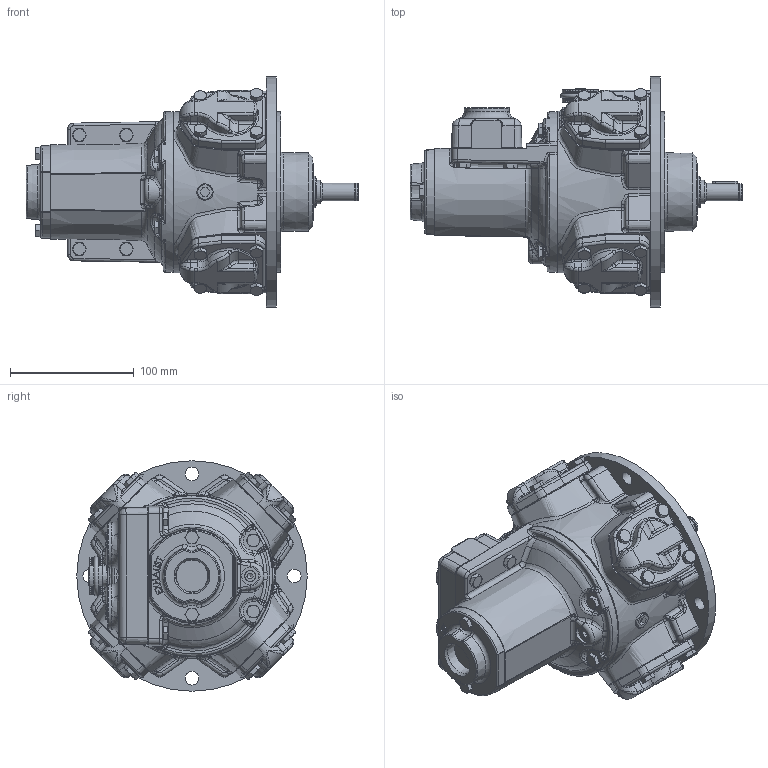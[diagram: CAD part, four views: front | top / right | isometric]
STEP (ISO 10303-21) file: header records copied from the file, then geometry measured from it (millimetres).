
FILE_DESCRIPTION (( 'STEP AP214' ), '1' );
FILE_NAME ('RM110.STEP', '2022-06-21T10:23:12', ( '' ), ( '' ), 'SwSTEP 2.0', 'SolidWorks 2020', '' );
FILE_SCHEMA (( 'AUTOMOTIVE_DESIGN' ));
Length unit declared in the file: millimetre
Products named in the file (1): RM110
Bounding box: 268 x 186 x 186 mm (x, y, z)
Volume: 2685865.1 mm3; surface area: 172680.7 mm2
Topology: 1 solids, 3 shells, 2225 faces, 5498 edges, 3284 vertices
Faces by surface type: plane 922, bspline 451, cylinder 360, cone 323, torus 139, sphere 30
Full cylindrical faces by diameter (mm): 2 x2, 5 x1, 9 x9, 10 x26, 11 x4, 11.875 x8, 13 x8, 13.157 x1, 14 x1, 14.005 x1, 19.05 x1, 25.4 x1, 25.46 x1, 28.8 x1, 38.45 x1, 40.59 x1, 46.98 x1, 129.97 x1, 130 x1, 186 x1
Entity records: 105031 total; most frequent: CARTESIAN_POINT 55411, ORIENTED_EDGE 10456, DIRECTION 8872, EDGE_CURVE 5228, AXIS2_PLACEMENT_3D 3472, VERTEX_POINT 3208, EDGE_LOOP 2438, FACE_OUTER_BOUND 2306
